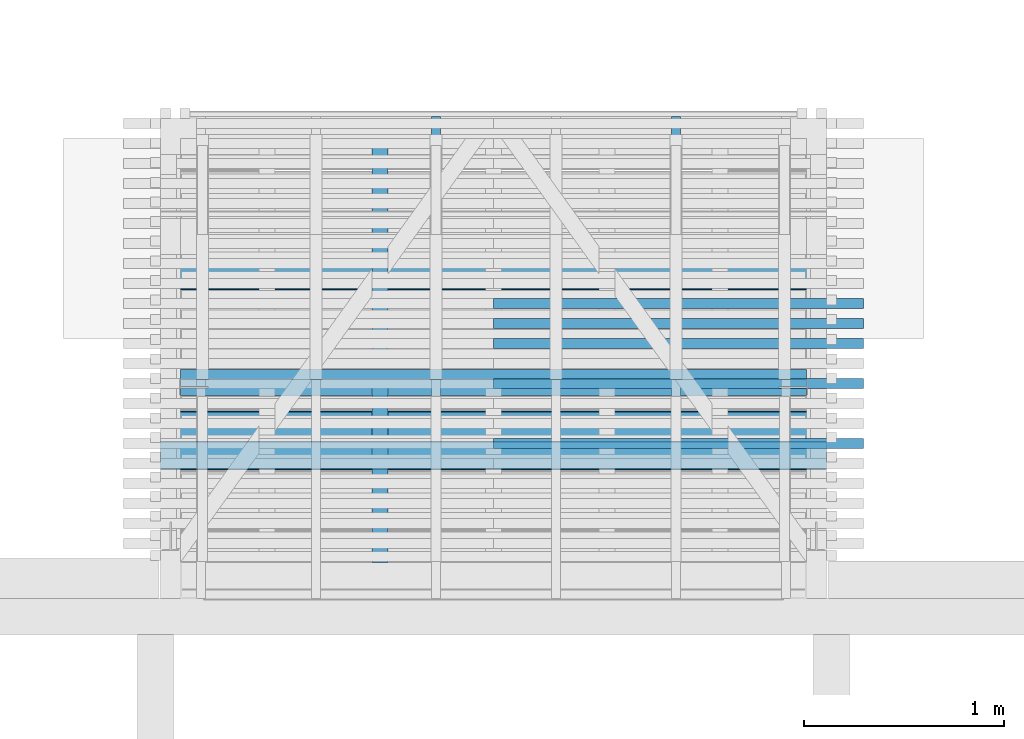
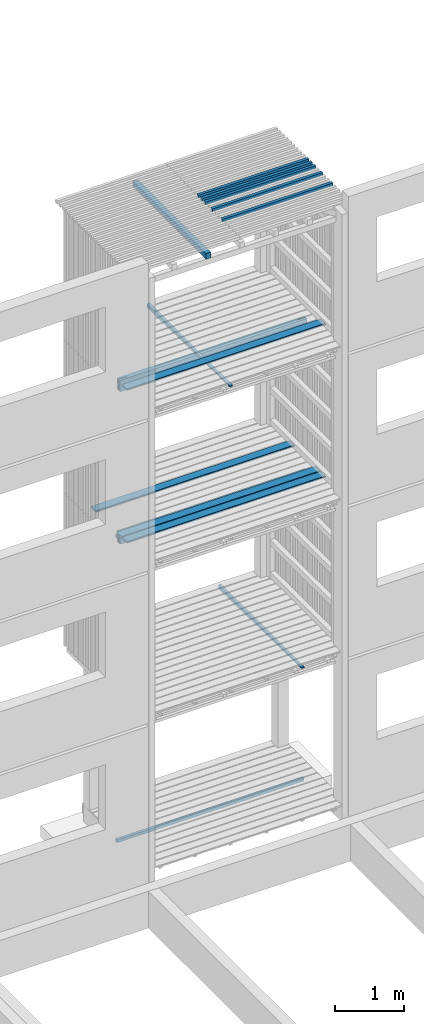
# One storey, part 99 of 182: 16 beams.
"""IFC2X3 building model written with IfcOpenShell, lengths in metres."""

from ifc_helpers import new_model, si_unit, frame, origin, place, context, project, spatial, faceted_brep, element, save


model = new_model("IFC2X3")

# Units and contexts
model_context = context("Model", 3, precision=1e-06, world=origin())
ifc_project = project(units=[si_unit("LENGTHUNIT", "METRE"), si_unit("PLANEANGLEUNIT", "RADIAN")], contexts=[model_context])

# Site, building, storey
site = spatial("IfcSite", under=ifc_project, CompositionType="ELEMENT")
building = spatial("IfcBuilding", under=site, CompositionType="ELEMENT")
storey = spatial("IfcBuildingStorey", under=building, Name="vs", CompositionType="ELEMENT", Elevation=-0.85)

# Beams
placement = place(None, origin())
beam_1_placement = place(placement, frame((46.53040135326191, 6.245077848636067, 10.47999999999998), z_axis=(0.0, 0.0, 1.0), x_axis=(-1.0, 0.0, 0.0)))
element("IfcBeam", 1, at=beam_1_placement, inside=storey, Name="Bardage", context=model_context, shape_type="Brep", body=[
    faceted_brep([(-3e-15, 0.025000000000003, 0.025000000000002), (-3e-15, -0.024999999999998, 0.025000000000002), (1.849999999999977, -0.024999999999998, 0.025000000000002), (1.849999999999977, 0.025000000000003, 0.025000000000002), (1.849999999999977, -0.024999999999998, 0.025000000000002), (-3e-15, -0.024999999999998, 0.025000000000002), (-3e-15, -0.024999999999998, -0.024999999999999), (1.849999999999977, -0.024999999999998, -0.024999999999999), (-3e-15, -0.024999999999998, 0.025000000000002), (-3e-15, 0.025000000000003, 0.025000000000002), (-3e-15, 0.025000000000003, -0.024999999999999), (-3e-15, -0.024999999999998, -0.024999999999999), (-3e-15, 0.025000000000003, -0.024999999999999), (-3e-15, 0.025000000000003, 0.025000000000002), (1.849999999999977, 0.025000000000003, 0.025000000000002), (1.849999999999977, 0.025000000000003, -0.024999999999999), (1.849999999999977, -0.024999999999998, -0.024999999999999), (-3e-15, -0.024999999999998, -0.024999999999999), (-3e-15, 0.025000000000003, -0.024999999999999), (1.849999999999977, 0.025000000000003, -0.024999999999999), (1.849999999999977, -0.024999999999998, 0.025000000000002), (1.849999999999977, -0.024999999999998, -0.024999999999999), (1.849999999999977, 0.025000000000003, -0.024999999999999), (1.849999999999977, 0.025000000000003, 0.025000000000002)], [[[0, 1, 2, 3]], [[4, 5, 6, 7]], [[8, 9, 10, 11]], [[12, 13, 14, 15]], [[16, 17, 18, 19]], [[20, 21, 22, 23]]]),
])
beam_2_placement = place(placement, frame((45.59340135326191, 4.870077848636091, 2.684400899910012), z_axis=(0.0, 0.0, 1.0), x_axis=(0.0, 1.0, 0.0)))
element("IfcBeam", 2, at=beam_2_placement, inside=storey, Name="Calage", context=model_context, shape_type="Brep", body=[
    faceted_brep([(2.410000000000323, -0.022500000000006, -0.035599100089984), (0.0, -0.022500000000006, 0.012600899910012), (0.0, 0.022499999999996, 0.012600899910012), (2.410000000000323, 0.022499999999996, -0.035599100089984), (0.0, 0.022499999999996, 0.035599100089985), (0.0, 0.022499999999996, 0.012600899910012), (0.0, -0.022500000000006, 0.012600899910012), (0.0, -0.022500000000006, 0.035599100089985), (2.410000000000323, 0.022499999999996, -0.035599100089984), (0.0, 0.022499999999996, 0.012600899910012), (0.0, 0.022499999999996, 0.035599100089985), (2.410000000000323, 0.022499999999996, 0.035599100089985), (2.410000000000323, -0.022500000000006, 0.035599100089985), (0.0, -0.022500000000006, 0.035599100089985), (0.0, -0.022500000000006, 0.012600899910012), (2.410000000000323, -0.022500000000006, -0.035599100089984), (2.410000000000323, 0.022499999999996, 0.035599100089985), (0.0, 0.022499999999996, 0.035599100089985), (0.0, -0.022500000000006, 0.035599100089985), (2.410000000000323, -0.022500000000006, 0.035599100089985), (2.410000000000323, 0.022499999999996, -0.035599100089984), (2.410000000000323, 0.022499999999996, 0.035599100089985), (2.410000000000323, -0.022500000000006, 0.035599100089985), (2.410000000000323, -0.022500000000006, -0.035599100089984)], [[[0, 1, 2, 3]], [[4, 5, 6, 7]], [[8, 9, 10, 11]], [[12, 13, 14, 15]], [[16, 17, 18, 19]], [[20, 21, 22, 23]]]),
])
beam_3_placement = place(placement, frame((46.53040135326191, 5.945077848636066, 10.47999999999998), z_axis=(0.0, 0.0, 1.0), x_axis=(-1.0, 0.0, 0.0)))
element("IfcBeam", 3, at=beam_3_placement, inside=storey, Name="Bardage", context=model_context, shape_type="Brep", body=[
    faceted_brep([(-3e-15, 0.025000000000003, 0.025000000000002), (-3e-15, -0.024999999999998, 0.025000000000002), (1.849999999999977, -0.024999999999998, 0.025000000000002), (1.849999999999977, 0.025000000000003, 0.025000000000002), (1.849999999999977, -0.024999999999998, 0.025000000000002), (-3e-15, -0.024999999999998, 0.025000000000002), (-3e-15, -0.024999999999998, -0.024999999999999), (1.849999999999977, -0.024999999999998, -0.024999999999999), (-3e-15, -0.024999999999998, 0.025000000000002), (-3e-15, 0.025000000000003, 0.025000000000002), (-3e-15, 0.025000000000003, -0.024999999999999), (-3e-15, -0.024999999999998, -0.024999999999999), (-3e-15, 0.025000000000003, -0.024999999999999), (-3e-15, 0.025000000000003, 0.025000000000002), (1.849999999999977, 0.025000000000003, 0.025000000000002), (1.849999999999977, 0.025000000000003, -0.024999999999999), (1.849999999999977, -0.024999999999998, -0.024999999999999), (-3e-15, -0.024999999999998, -0.024999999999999), (-3e-15, 0.025000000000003, -0.024999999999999), (1.849999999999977, 0.025000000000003, -0.024999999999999), (1.849999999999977, -0.024999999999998, 0.025000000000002), (1.849999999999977, -0.024999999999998, -0.024999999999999), (1.849999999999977, 0.025000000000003, -0.024999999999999), (1.849999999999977, 0.025000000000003, 0.025000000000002)], [[[0, 1, 2, 3]], [[4, 5, 6, 7]], [[8, 9, 10, 11]], [[12, 13, 14, 15]], [[16, 17, 18, 19]], [[20, 21, 22, 23]]]),
])
beam_4_placement = place(placement, frame((46.53040135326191, 5.645077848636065, 10.47999999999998), z_axis=(0.0, 0.0, 1.0), x_axis=(-1.0, 0.0, 0.0)))
element("IfcBeam", 4, at=beam_4_placement, inside=storey, Name="Bardage", context=model_context, shape_type="Brep", body=[
    faceted_brep([(-3e-15, 0.024999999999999, 0.025000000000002), (-3e-15, -0.024999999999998, 0.025000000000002), (1.849999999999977, -0.024999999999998, 0.025000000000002), (1.849999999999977, 0.024999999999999, 0.025000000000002), (1.849999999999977, -0.024999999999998, 0.025000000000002), (-3e-15, -0.024999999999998, 0.025000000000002), (-3e-15, -0.024999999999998, -0.024999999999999), (1.849999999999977, -0.024999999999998, -0.024999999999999), (-3e-15, -0.024999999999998, 0.025000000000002), (-3e-15, 0.024999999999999, 0.025000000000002), (-3e-15, 0.024999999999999, -0.024999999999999), (-3e-15, -0.024999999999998, -0.024999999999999), (-3e-15, 0.024999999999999, -0.024999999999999), (-3e-15, 0.024999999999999, 0.025000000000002), (1.849999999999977, 0.024999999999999, 0.025000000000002), (1.849999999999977, 0.024999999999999, -0.024999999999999), (1.849999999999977, -0.024999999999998, -0.024999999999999), (-3e-15, -0.024999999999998, -0.024999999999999), (-3e-15, 0.024999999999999, -0.024999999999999), (1.849999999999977, 0.024999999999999, -0.024999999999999), (1.849999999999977, -0.024999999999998, 0.025000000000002), (1.849999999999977, -0.024999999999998, -0.024999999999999), (1.849999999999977, 0.024999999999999, -0.024999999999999), (1.849999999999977, 0.024999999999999, 0.025000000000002)], [[[0, 1, 2, 3]], [[4, 5, 6, 7]], [[8, 9, 10, 11]], [[12, 13, 14, 15]], [[16, 17, 18, 19]], [[20, 21, 22, 23]]]),
])
beam_5_placement = place(placement, frame((46.53040135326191, 6.345077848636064, 10.47999999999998), z_axis=(0.0, 0.0, 1.0), x_axis=(-1.0, 0.0, 0.0)))
element("IfcBeam", 5, at=beam_5_placement, inside=storey, Name="Bardage", context=model_context, shape_type="Brep", body=[
    faceted_brep([(-3e-15, 0.024999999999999, 0.025000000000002), (-3e-15, -0.025000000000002, 0.025000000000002), (1.849999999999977, -0.025000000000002, 0.025000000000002), (1.849999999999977, 0.024999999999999, 0.025000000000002), (1.849999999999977, -0.025000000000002, 0.025000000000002), (-3e-15, -0.025000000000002, 0.025000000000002), (-3e-15, -0.025000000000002, -0.024999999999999), (1.849999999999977, -0.025000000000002, -0.024999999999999), (-3e-15, -0.025000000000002, 0.025000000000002), (-3e-15, 0.024999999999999, 0.025000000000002), (-3e-15, 0.024999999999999, -0.024999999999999), (-3e-15, -0.025000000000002, -0.024999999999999), (-3e-15, 0.024999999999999, -0.024999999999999), (-3e-15, 0.024999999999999, 0.025000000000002), (1.849999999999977, 0.024999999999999, 0.025000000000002), (1.849999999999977, 0.024999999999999, -0.024999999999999), (1.849999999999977, -0.025000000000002, -0.024999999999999), (-3e-15, -0.025000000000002, -0.024999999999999), (-3e-15, 0.024999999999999, -0.024999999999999), (1.849999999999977, 0.024999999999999, -0.024999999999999), (1.849999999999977, -0.025000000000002, 0.025000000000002), (1.849999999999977, -0.025000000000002, -0.024999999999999), (1.849999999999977, 0.024999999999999, -0.024999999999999), (1.849999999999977, 0.024999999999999, 0.025000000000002)], [[[0, 1, 2, 3]], [[4, 5, 6, 7]], [[8, 9, 10, 11]], [[12, 13, 14, 15]], [[16, 17, 18, 19]], [[20, 21, 22, 23]]]),
])
beam_6_placement = place(placement, frame((46.53040135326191, 6.145077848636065, 10.47999999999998), z_axis=(0.0, 0.0, 1.0), x_axis=(-1.0, 0.0, 0.0)))
element("IfcBeam", 6, at=beam_6_placement, inside=storey, Name="Bardage", context=model_context, shape_type="Brep", body=[
    faceted_brep([(-3e-15, 0.024999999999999, 0.025000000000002), (-3e-15, -0.024999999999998, 0.025000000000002), (1.849999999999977, -0.024999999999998, 0.025000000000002), (1.849999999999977, 0.024999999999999, 0.025000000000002), (1.849999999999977, -0.024999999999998, 0.025000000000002), (-3e-15, -0.024999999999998, 0.025000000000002), (-3e-15, -0.024999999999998, -0.024999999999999), (1.849999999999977, -0.024999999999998, -0.024999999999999), (-3e-15, -0.024999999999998, 0.025000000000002), (-3e-15, 0.024999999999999, 0.025000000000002), (-3e-15, 0.024999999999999, -0.024999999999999), (-3e-15, -0.024999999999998, -0.024999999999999), (-3e-15, 0.024999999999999, -0.024999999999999), (-3e-15, 0.024999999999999, 0.025000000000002), (1.849999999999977, 0.024999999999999, 0.025000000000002), (1.849999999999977, 0.024999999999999, -0.024999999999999), (1.849999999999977, -0.024999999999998, -0.024999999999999), (-3e-15, -0.024999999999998, -0.024999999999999), (-3e-15, 0.024999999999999, -0.024999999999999), (1.849999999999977, 0.024999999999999, -0.024999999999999), (1.849999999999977, -0.024999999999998, 0.025000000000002), (1.849999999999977, -0.024999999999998, -0.024999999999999), (1.849999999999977, 0.024999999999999, -0.024999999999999), (1.849999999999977, 0.024999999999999, 0.025000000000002)], [[[0, 1, 2, 3]], [[4, 5, 6, 7]], [[8, 9, 10, 11]], [[12, 13, 14, 15]], [[16, 17, 18, 19]], [[20, 21, 22, 23]]]),
])
beam_7_placement = place(placement, frame((46.34540135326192, 5.584577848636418, 5.433499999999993), z_axis=(0.0, 0.0, 1.0), x_axis=(-1.0, 0.0, 0.0)))
element("IfcBeam", 7, at=beam_7_placement, inside=storey, Name="Caillebotis", context=model_context, shape_type="Brep", body=[
    faceted_brep([(3.329999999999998, -0.072499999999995, -0.0135), (3.329999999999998, 0.072500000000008, -0.0135), (3.329999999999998, 0.072500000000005, 0.0085), (3.329999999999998, 0.067500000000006, 0.0135), (3.329999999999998, -0.067499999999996, 0.0135), (3.329999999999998, -0.072499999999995, 0.008500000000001), (0.0, -0.072499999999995, 0.008500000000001), (0.0, -0.067499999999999, 0.0135), (0.0, 0.067500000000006, 0.0135), (0.0, 0.072500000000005, 0.0085), (0.0, 0.072500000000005, -0.0135), (0.0, -0.072499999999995, -0.0135), (3.329999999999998, 0.072500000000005, 0.0085), (3.329999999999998, 0.072500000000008, -0.0135), (0.0, 0.072500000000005, -0.0135), (0.0, 0.072500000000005, 0.0085), (3.329999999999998, 0.067500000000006, 0.0135), (3.329999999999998, 0.072500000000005, 0.0085), (0.0, 0.072500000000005, 0.0085), (0.0, 0.067500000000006, 0.0135), (3.329999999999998, -0.067499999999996, 0.0135), (3.329999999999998, 0.067500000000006, 0.0135), (0.0, 0.067500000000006, 0.0135), (0.0, -0.067499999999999, 0.0135), (3.329999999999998, -0.072499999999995, 0.008500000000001), (3.329999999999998, -0.067499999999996, 0.0135), (0.0, -0.067499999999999, 0.0135), (0.0, -0.072499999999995, 0.008500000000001), (3.329999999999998, -0.072499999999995, -0.0135), (3.329999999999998, -0.072499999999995, 0.008500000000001), (0.0, -0.072499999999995, 0.008500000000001), (0.0, -0.072499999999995, -0.0135), (0.0, 0.072500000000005, -0.0135), (3.329999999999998, 0.072500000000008, -0.0135), (3.329999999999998, -0.072499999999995, -0.0135), (0.0, -0.072499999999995, -0.0135)], [[[0, 1, 2, 3, 4, 5]], [[6, 7, 8, 9, 10, 11]], [[12, 13, 14, 15]], [[16, 17, 18, 19]], [[20, 21, 22, 23]], [[24, 25, 26, 27]], [[28, 29, 30, 31]], [[32, 33, 34, 35]]]),
])
beam_8_placement = place(placement, frame((46.345401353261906, 6.484577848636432, 5.433499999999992), z_axis=(0.0, 0.0, 1.0), x_axis=(-1.0, -1e-14, 0.0)))
element("IfcBeam", 8, at=beam_8_placement, inside=storey, Name="Caillebotis", context=model_context, shape_type="Brep", body=[
    faceted_brep([(3.329999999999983, -0.072500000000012, -0.013499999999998), (3.329999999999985, 0.072499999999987, -0.013499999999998), (3.329999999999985, 0.072499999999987, 0.008500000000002), (3.329999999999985, 0.067499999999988, 0.013500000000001), (3.329999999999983, -0.067500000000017, 0.013500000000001), (3.329999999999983, -0.072500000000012, 0.008500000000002), (-1.5e-14, -0.07249999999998, 0.008500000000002), (-1.5e-14, -0.067499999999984, 0.013500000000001), (-1.4e-14, 0.067500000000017, 0.013500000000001), (-1.4e-14, 0.072500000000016, 0.008500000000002), (-1.4e-14, 0.072500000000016, -0.013499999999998), (-1.5e-14, -0.07249999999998, -0.013499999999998), (3.329999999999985, 0.072499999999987, 0.008500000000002), (3.329999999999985, 0.072499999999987, -0.013499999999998), (-1.4e-14, 0.072500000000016, -0.013499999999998), (-1.4e-14, 0.072500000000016, 0.008500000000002), (3.329999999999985, 0.067499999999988, 0.013500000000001), (3.329999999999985, 0.072499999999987, 0.008500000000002), (-1.4e-14, 0.072500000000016, 0.008500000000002), (-1.4e-14, 0.067500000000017, 0.013500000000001), (3.329999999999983, -0.067500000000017, 0.013500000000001), (3.329999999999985, 0.067499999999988, 0.013500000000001), (-1.4e-14, 0.067500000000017, 0.013500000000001), (-1.5e-14, -0.067499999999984, 0.013500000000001), (3.329999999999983, -0.072500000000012, 0.008500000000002), (3.329999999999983, -0.067500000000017, 0.013500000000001), (-1.5e-14, -0.067499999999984, 0.013500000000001), (-1.5e-14, -0.07249999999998, 0.008500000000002), (3.329999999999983, -0.072500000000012, -0.013499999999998), (3.329999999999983, -0.072500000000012, 0.008500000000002), (-1.5e-14, -0.07249999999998, 0.008500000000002), (-1.5e-14, -0.07249999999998, -0.013499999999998), (-1.4e-14, 0.072500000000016, -0.013499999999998), (3.329999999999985, 0.072499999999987, -0.013499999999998), (3.329999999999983, -0.072500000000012, -0.013499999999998), (-1.5e-14, -0.07249999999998, -0.013499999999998)], [[[0, 1, 2, 3, 4, 5]], [[6, 7, 8, 9, 10, 11]], [[12, 13, 14, 15]], [[16, 17, 18, 19]], [[20, 21, 22, 23]], [[24, 25, 26, 27]], [[28, 29, 30, 31]], [[32, 33, 34, 35]]]),
])
beam_9_placement = place(placement, frame((43.11540135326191, 5.990077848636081, 5.217399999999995), z_axis=(0.0, 0.0, 1.0), x_axis=(1.0, 0.0, 0.0)))
element("IfcBeam", 9, at=beam_9_placement, inside=storey, Name="Ligneul", context=model_context, shape_type="Brep", body=[
    faceted_brep([(4e-15, -0.024999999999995, 0.024999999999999), (4e-15, -0.024999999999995, -0.025), (3.129999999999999, -0.024999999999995, -0.025), (3.129999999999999, -0.024999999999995, 0.024999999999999), (4e-15, 0.025000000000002, 0.024999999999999), (4e-15, -0.024999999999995, 0.024999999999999), (3.129999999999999, -0.024999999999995, 0.024999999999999), (3.129999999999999, 0.025000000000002, 0.024999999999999), (4e-15, -0.024999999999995, 0.024999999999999), (4e-15, 0.025000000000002, 0.024999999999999), (4e-15, 0.025000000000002, -0.025), (4e-15, -0.024999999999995, -0.025), (4e-15, 0.025000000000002, -0.025), (4e-15, 0.025000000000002, 0.024999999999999), (3.129999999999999, 0.025000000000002, 0.024999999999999), (3.129999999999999, 0.025000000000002, -0.025), (3.129999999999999, -0.024999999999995, -0.025), (4e-15, -0.024999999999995, -0.025), (4e-15, 0.025000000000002, -0.025), (3.129999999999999, 0.025000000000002, -0.025), (3.129999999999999, -0.024999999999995, 0.024999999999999), (3.129999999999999, -0.024999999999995, -0.025), (3.129999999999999, 0.025000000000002, -0.025), (3.129999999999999, 0.025000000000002, 0.024999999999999)], [[[0, 1, 2, 3]], [[4, 5, 6, 7]], [[8, 9, 10, 11]], [[12, 13, 14, 15]], [[16, 17, 18, 19]], [[20, 21, 22, 23]]]),
])
beam_10_placement = place(placement, frame((44.39340135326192, 4.870077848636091, 8.084400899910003), z_axis=(0.0, 0.0, 1.0), x_axis=(0.0, 1.0, 0.0)))
element("IfcBeam", 10, at=beam_10_placement, inside=storey, Name="Calage", context=model_context, shape_type="Brep", body=[
    faceted_brep([(2.410000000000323, -0.022499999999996, -0.035599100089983), (0.0, -0.022499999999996, 0.012600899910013), (0.0, 0.022500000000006, 0.012600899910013), (2.410000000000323, 0.022500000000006, -0.035599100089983), (0.0, 0.022500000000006, 0.035599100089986), (0.0, 0.022500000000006, 0.012600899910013), (0.0, -0.022499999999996, 0.012600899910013), (0.0, -0.022499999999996, 0.035599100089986), (2.410000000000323, 0.022500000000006, -0.035599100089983), (0.0, 0.022500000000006, 0.012600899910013), (0.0, 0.022500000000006, 0.035599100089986), (2.410000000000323, 0.022500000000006, 0.035599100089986), (2.410000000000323, -0.022499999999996, 0.035599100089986), (0.0, -0.022499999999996, 0.035599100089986), (0.0, -0.022499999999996, 0.012600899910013), (2.410000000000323, -0.022499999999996, -0.035599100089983), (2.410000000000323, 0.022500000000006, 0.035599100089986), (0.0, 0.022500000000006, 0.035599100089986), (0.0, -0.022499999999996, 0.035599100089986), (2.410000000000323, -0.022499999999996, 0.035599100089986), (2.410000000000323, 0.022500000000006, -0.035599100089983), (2.410000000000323, 0.022500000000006, 0.035599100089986), (2.410000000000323, -0.022499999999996, 0.035599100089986), (2.410000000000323, -0.022499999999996, -0.035599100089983)], [[[0, 1, 2, 3]], [[4, 5, 6, 7]], [[8, 9, 10, 11]], [[12, 13, 14, 15]], [[16, 17, 18, 19]], [[20, 21, 22, 23]]]),
])
beam_11_placement = place(placement, frame((46.24540135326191, 5.925077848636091, 5.239999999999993), z_axis=(0.0, 0.0, 1.0), x_axis=(-1.0, -2e-15, 0.0)))
element("IfcBeam", 11, at=beam_11_placement, inside=storey, Name="Sommier", context=model_context, shape_type="Brep", body=[
    faceted_brep([(0.137000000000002, -0.003999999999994, -0.100000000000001), (1e-15, -0.003999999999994, -0.100000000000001), (1e-15, -0.003999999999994, 0.100000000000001), (0.137000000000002, -0.003999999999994, 0.100000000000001), (0.137000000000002, 0.004000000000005, -0.100000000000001), (0.137000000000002, -0.003999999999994, -0.100000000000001), (0.137000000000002, -0.003999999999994, 0.100000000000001), (0.137000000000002, 0.004000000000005, 0.100000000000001), (1e-15, 0.004000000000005, -0.100000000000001), (0.137000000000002, 0.004000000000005, -0.100000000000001), (0.137000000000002, 0.004000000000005, 0.100000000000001), (1e-15, 0.004000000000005, 0.100000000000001), (1e-15, -0.003999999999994, 0.100000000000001), (1e-15, -0.003999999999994, -0.100000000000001), (1e-15, -0.039999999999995, -0.100000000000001), (1e-15, -0.039999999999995, 0.100000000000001), (1e-15, 0.040000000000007, 0.100000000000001), (1e-15, 0.040000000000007, -0.100000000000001), (1e-15, 0.004000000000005, -0.100000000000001), (1e-15, 0.004000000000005, 0.100000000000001), (2.992999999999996, 0.004000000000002, 0.100000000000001), (2.992999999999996, 0.004000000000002, -0.100000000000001), (3.129999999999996, 0.004000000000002, -0.1), (3.129999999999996, 0.004000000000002, 0.100000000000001), (2.992999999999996, -0.004000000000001, 0.100000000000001), (2.992999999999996, -0.004000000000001, -0.100000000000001), (2.992999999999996, 0.004000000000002, -0.100000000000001), (2.992999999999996, 0.004000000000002, 0.100000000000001), (3.129999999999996, -0.004000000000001, 0.100000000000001), (3.129999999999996, -0.004000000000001, -0.100000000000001), (2.992999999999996, -0.004000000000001, -0.100000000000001), (2.992999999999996, -0.004000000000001, 0.100000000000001), (3.129999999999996, 0.004000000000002, 0.100000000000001), (3.129999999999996, 0.004000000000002, -0.1), (3.129999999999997, 0.04, -0.1), (3.129999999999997, 0.04, 0.100000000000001), (3.129999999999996, -0.040000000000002, 0.100000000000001), (3.129999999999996, -0.040000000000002, -0.1), (3.129999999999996, -0.004000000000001, -0.100000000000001), (3.129999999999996, -0.004000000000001, 0.100000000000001), (2.992999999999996, 0.004000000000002, 0.100000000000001), (3.129999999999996, 0.004000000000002, 0.100000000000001), (3.129999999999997, 0.04, 0.100000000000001), (1e-15, 0.040000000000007, 0.100000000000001), (1e-15, 0.004000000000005, 0.100000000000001), (0.137000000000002, 0.004000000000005, 0.100000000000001), (0.137000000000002, -0.003999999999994, 0.100000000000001), (1e-15, -0.003999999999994, 0.100000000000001), (1e-15, -0.039999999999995, 0.100000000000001), (3.129999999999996, -0.040000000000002, 0.100000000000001), (3.129999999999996, -0.004000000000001, 0.100000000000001), (2.992999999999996, -0.004000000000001, 0.100000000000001), (1e-15, -0.039999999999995, -0.100000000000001), (1e-15, -0.003999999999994, -0.100000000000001), (0.137000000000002, -0.003999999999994, -0.100000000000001), (0.137000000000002, 0.004000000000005, -0.100000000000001), (1e-15, 0.004000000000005, -0.100000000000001), (1e-15, 0.040000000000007, -0.100000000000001), (3.129999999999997, 0.04, -0.1), (3.129999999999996, 0.004000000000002, -0.1), (2.992999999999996, 0.004000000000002, -0.100000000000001), (2.992999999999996, -0.004000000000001, -0.100000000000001), (3.129999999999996, -0.004000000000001, -0.100000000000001), (3.129999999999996, -0.040000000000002, -0.1), (1e-15, -0.039999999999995, -0.100000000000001), (3.129999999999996, -0.040000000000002, -0.1), (3.129999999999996, -0.040000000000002, 0.100000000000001), (1e-15, -0.039999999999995, 0.100000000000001), (1e-15, 0.040000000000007, 0.100000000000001), (3.129999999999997, 0.04, 0.100000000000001), (3.129999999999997, 0.04, -0.1), (1e-15, 0.040000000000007, -0.100000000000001)], [[[0, 1, 2, 3]], [[4, 5, 6, 7]], [[8, 9, 10, 11]], [[12, 13, 14, 15]], [[16, 17, 18, 19]], [[20, 21, 22, 23]], [[24, 25, 26, 27]], [[28, 29, 30, 31]], [[32, 33, 34, 35]], [[36, 37, 38, 39]], [[40, 41, 42, 43, 44, 45, 46, 47, 48, 49, 50, 51]], [[52, 53, 54, 55, 56, 57, 58, 59, 60, 61, 62, 63]], [[64, 65, 66, 67]], [[68, 69, 70, 71]]]),
])
beam_12_placement = place(placement, frame((43.11540135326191, 5.990077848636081, -0.164999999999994), z_axis=(0.0, 0.0, 1.0), x_axis=(1.0, 0.0, 0.0)))
element("IfcBeam", 12, at=beam_12_placement, inside=storey, Name="Ligneul", context=model_context, shape_type="Brep", body=[
    faceted_brep([(4e-15, -0.024999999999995, 0.025), (4e-15, -0.024999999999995, -0.025), (3.129999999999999, -0.024999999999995, -0.025), (3.129999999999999, -0.024999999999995, 0.025), (4e-15, 0.025000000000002, 0.025), (4e-15, -0.024999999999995, 0.025), (3.129999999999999, -0.024999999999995, 0.025), (3.129999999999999, 0.025000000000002, 0.025), (4e-15, -0.024999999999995, 0.025), (4e-15, 0.025000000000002, 0.025), (4e-15, 0.025000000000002, -0.025), (4e-15, -0.024999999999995, -0.025), (4e-15, 0.025000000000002, -0.025), (4e-15, 0.025000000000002, 0.025), (3.129999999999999, 0.025000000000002, 0.025), (3.129999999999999, 0.025000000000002, -0.025), (3.129999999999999, -0.024999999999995, -0.025), (4e-15, -0.024999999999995, -0.025), (4e-15, 0.025000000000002, -0.025), (3.129999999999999, 0.025000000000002, -0.025), (3.129999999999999, -0.024999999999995, 0.025), (3.129999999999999, -0.024999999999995, -0.025), (3.129999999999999, 0.025000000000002, -0.025), (3.129999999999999, 0.025000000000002, 0.025)], [[[0, 1, 2, 3]], [[4, 5, 6, 7]], [[8, 9, 10, 11]], [[12, 13, 14, 15]], [[16, 17, 18, 19]], [[20, 21, 22, 23]]]),
])
beam_13_placement = place(placement, frame((44.11373468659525, 5.050077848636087, 10.404999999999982), z_axis=(0.0, 0.0, 1.0), x_axis=(0.0, 1.0, 0.0)))
element("IfcBeam", 13, at=beam_13_placement, inside=storey, Name="Support bardage", context=model_context, shape_type="Brep", body=[
    faceted_brep([(2.120000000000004, -0.040000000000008, 0.050000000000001), (2.120000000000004, 0.03999999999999, 0.050000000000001), (3e-15, 0.03999999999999, 0.050000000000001), (3e-15, -0.040000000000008, 0.050000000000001), (3e-15, 0.03999999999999, 0.050000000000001), (2.120000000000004, 0.03999999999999, 0.050000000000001), (2.120000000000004, 0.03999999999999, -0.050000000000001), (3e-15, 0.03999999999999, -0.050000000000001), (2.120000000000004, 0.03999999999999, 0.050000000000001), (2.120000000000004, -0.040000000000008, 0.050000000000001), (2.120000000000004, -0.040000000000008, -0.050000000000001), (2.120000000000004, 0.03999999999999, -0.050000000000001), (2.120000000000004, -0.040000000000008, -0.050000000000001), (2.120000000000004, -0.040000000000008, 0.050000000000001), (3e-15, -0.040000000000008, 0.050000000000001), (3e-15, -0.040000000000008, -0.050000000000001), (3e-15, 0.03999999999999, -0.050000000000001), (2.120000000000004, 0.03999999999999, -0.050000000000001), (2.120000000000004, -0.040000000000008, -0.050000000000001), (3e-15, -0.040000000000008, -0.050000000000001), (3e-15, 0.03999999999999, 0.050000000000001), (3e-15, 0.03999999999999, -0.050000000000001), (3e-15, -0.040000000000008, -0.050000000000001), (3e-15, -0.040000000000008, 0.050000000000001)], [[[0, 1, 2, 3]], [[4, 5, 6, 7]], [[8, 9, 10, 11]], [[12, 13, 14, 15]], [[16, 17, 18, 19]], [[20, 21, 22, 23]]]),
])
beam_14_placement = place(placement, frame((46.24540135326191, 5.925077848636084, 7.93999999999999), z_axis=(0.0, 0.0, 1.0), x_axis=(-1.0, 0.0, 0.0)))
element("IfcBeam", 14, at=beam_14_placement, inside=storey, Name="Sommier", context=model_context, shape_type="Brep", body=[
    faceted_brep([(0.137000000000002, -0.004000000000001, -0.100000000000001), (1e-15, -0.004000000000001, -0.100000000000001), (1e-15, -0.004000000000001, 0.1), (0.137000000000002, -0.004000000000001, 0.1), (0.137000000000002, 0.003999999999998, -0.100000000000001), (0.137000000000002, -0.004000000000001, -0.100000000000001), (0.137000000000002, -0.004000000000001, 0.1), (0.137000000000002, 0.003999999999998, 0.1), (1e-15, 0.003999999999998, -0.100000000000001), (0.137000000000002, 0.003999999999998, -0.100000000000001), (0.137000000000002, 0.003999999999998, 0.1), (1e-15, 0.003999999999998, 0.1), (1e-15, -0.004000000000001, 0.1), (1e-15, -0.004000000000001, -0.100000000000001), (1e-15, -0.040000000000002, -0.100000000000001), (1e-15, -0.040000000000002, 0.1), (1e-15, 0.04, 0.1), (1e-15, 0.04, -0.100000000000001), (1e-15, 0.003999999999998, -0.100000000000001), (1e-15, 0.003999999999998, 0.1), (2.992999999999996, 0.004000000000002, 0.1), (2.992999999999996, 0.004000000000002, -0.100000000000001), (3.129999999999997, 0.004000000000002, -0.100000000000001), (3.129999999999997, 0.004000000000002, 0.1), (2.992999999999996, -0.004000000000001, 0.1), (2.992999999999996, -0.004000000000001, -0.100000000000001), (2.992999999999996, 0.004000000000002, -0.100000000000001), (2.992999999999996, 0.004000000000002, 0.1), (3.129999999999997, -0.004000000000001, 0.1), (3.129999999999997, -0.004000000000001, -0.100000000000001), (2.992999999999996, -0.004000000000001, -0.100000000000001), (2.992999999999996, -0.004000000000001, 0.1), (3.129999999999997, 0.004000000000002, 0.1), (3.129999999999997, 0.004000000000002, -0.100000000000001), (3.129999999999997, 0.040000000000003, -0.100000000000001), (3.129999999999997, 0.040000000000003, 0.1), (3.129999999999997, -0.040000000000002, 0.1), (3.129999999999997, -0.040000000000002, -0.100000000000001), (3.129999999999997, -0.004000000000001, -0.100000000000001), (3.129999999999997, -0.004000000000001, 0.1), (2.992999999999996, 0.004000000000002, 0.1), (3.129999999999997, 0.004000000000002, 0.1), (3.129999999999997, 0.040000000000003, 0.1), (1e-15, 0.04, 0.1), (1e-15, 0.003999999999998, 0.1), (0.137000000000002, 0.003999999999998, 0.1), (0.137000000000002, -0.004000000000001, 0.1), (1e-15, -0.004000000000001, 0.1), (1e-15, -0.040000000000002, 0.1), (3.129999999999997, -0.040000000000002, 0.1), (3.129999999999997, -0.004000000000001, 0.1), (2.992999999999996, -0.004000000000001, 0.1), (1e-15, -0.040000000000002, -0.100000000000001), (1e-15, -0.004000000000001, -0.100000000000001), (0.137000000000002, -0.004000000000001, -0.100000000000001), (0.137000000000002, 0.003999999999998, -0.100000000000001), (1e-15, 0.003999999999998, -0.100000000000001), (1e-15, 0.04, -0.100000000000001), (3.129999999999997, 0.040000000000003, -0.100000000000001), (3.129999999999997, 0.004000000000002, -0.100000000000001), (2.992999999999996, 0.004000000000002, -0.100000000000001), (2.992999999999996, -0.004000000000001, -0.100000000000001), (3.129999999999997, -0.004000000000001, -0.100000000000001), (3.129999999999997, -0.040000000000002, -0.100000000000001), (1e-15, -0.040000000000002, -0.100000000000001), (3.129999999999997, -0.040000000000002, -0.100000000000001), (3.129999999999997, -0.040000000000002, 0.1), (1e-15, -0.040000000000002, 0.1), (1e-15, 0.04, 0.1), (3.129999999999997, 0.040000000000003, 0.1), (3.129999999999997, 0.040000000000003, -0.100000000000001), (1e-15, 0.04, -0.100000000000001)], [[[0, 1, 2, 3]], [[4, 5, 6, 7]], [[8, 9, 10, 11]], [[12, 13, 14, 15]], [[16, 17, 18, 19]], [[20, 21, 22, 23]], [[24, 25, 26, 27]], [[28, 29, 30, 31]], [[32, 33, 34, 35]], [[36, 37, 38, 39]], [[40, 41, 42, 43, 44, 45, 46, 47, 48, 49, 50, 51]], [[52, 53, 54, 55, 56, 57, 58, 59, 60, 61, 62, 63]], [[64, 65, 66, 67]], [[68, 69, 70, 71]]]),
])
beam_15_placement = place(placement, frame((46.34540135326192, 5.584577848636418, 8.13349999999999), z_axis=(0.0, 0.0, 1.0), x_axis=(-1.0, -2e-15, 0.0)))
element("IfcBeam", 15, at=beam_15_placement, inside=storey, Name="Caillebotis", context=model_context, shape_type="Brep", body=[
    faceted_brep([(3.329999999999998, -0.072500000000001, -0.013500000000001), (3.329999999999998, 0.072500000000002, -0.013500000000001), (3.329999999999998, 0.072499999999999, 0.008499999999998), (3.329999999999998, 0.0675, 0.013499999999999), (3.329999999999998, -0.067500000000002, 0.013499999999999), (3.329999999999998, -0.072500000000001, 0.0085), (0.0, -0.072499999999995, 0.0085), (0.0, -0.067499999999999, 0.013499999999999), (0.0, 0.067500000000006, 0.013499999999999), (0.0, 0.072500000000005, 0.008499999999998), (0.0, 0.072500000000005, -0.013500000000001), (0.0, -0.072499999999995, -0.013500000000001), (3.329999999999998, 0.072499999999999, 0.008499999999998), (3.329999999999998, 0.072500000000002, -0.013500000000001), (0.0, 0.072500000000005, -0.013500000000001), (0.0, 0.072500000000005, 0.008499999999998), (3.329999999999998, 0.0675, 0.013499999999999), (3.329999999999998, 0.072499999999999, 0.008499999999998), (0.0, 0.072500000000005, 0.008499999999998), (0.0, 0.067500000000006, 0.013499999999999), (3.329999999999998, -0.067500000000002, 0.013499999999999), (3.329999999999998, 0.0675, 0.013499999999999), (0.0, 0.067500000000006, 0.013499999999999), (0.0, -0.067499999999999, 0.013499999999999), (3.329999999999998, -0.072500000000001, 0.0085), (3.329999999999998, -0.067500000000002, 0.013499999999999), (0.0, -0.067499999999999, 0.013499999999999), (0.0, -0.072499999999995, 0.0085), (3.329999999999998, -0.072500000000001, -0.013500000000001), (3.329999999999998, -0.072500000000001, 0.0085), (0.0, -0.072499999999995, 0.0085), (0.0, -0.072499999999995, -0.013500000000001), (0.0, 0.072500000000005, -0.013500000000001), (3.329999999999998, 0.072500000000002, -0.013500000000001), (3.329999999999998, -0.072500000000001, -0.013500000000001), (0.0, -0.072499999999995, -0.013500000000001)], [[[0, 1, 2, 3, 4, 5]], [[6, 7, 8, 9, 10, 11]], [[12, 13, 14, 15]], [[16, 17, 18, 19]], [[20, 21, 22, 23]], [[24, 25, 26, 27]], [[28, 29, 30, 31]], [[32, 33, 34, 35]]]),
])
beam_16_placement = place(placement, frame((46.34540135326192, 5.734577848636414, 5.433499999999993), z_axis=(0.0, 0.0, 1.0), x_axis=(-1.0, 0.0, 0.0)))
element("IfcBeam", 16, at=beam_16_placement, inside=storey, Name="Caillebotis", context=model_context, shape_type="Brep", body=[
    faceted_brep([(3.329999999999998, -0.072499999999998, -0.0135), (3.329999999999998, 0.072500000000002, -0.0135), (3.329999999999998, 0.072500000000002, 0.0085), (3.329999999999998, 0.067500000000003, 0.0135), (3.329999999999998, -0.067500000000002, 0.0135), (3.329999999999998, -0.072499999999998, 0.008500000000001), (0.0, -0.072499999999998, 0.008500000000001), (0.0, -0.067500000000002, 0.0135), (0.0, 0.067500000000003, 0.0135), (0.0, 0.072499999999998, 0.0085), (0.0, 0.072499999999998, -0.0135), (0.0, -0.072499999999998, -0.0135), (3.329999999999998, 0.072500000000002, 0.0085), (3.329999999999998, 0.072500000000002, -0.0135), (0.0, 0.072499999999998, -0.0135), (0.0, 0.072499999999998, 0.0085), (3.329999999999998, 0.067500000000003, 0.0135), (3.329999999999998, 0.072500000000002, 0.0085), (0.0, 0.072499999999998, 0.0085), (0.0, 0.067500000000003, 0.0135), (3.329999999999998, -0.067500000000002, 0.0135), (3.329999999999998, 0.067500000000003, 0.0135), (0.0, 0.067500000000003, 0.0135), (0.0, -0.067500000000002, 0.0135), (3.329999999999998, -0.072499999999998, 0.008500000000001), (3.329999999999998, -0.067500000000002, 0.0135), (0.0, -0.067500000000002, 0.0135), (0.0, -0.072499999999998, 0.008500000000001), (3.329999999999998, -0.072499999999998, -0.0135), (3.329999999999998, -0.072499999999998, 0.008500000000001), (0.0, -0.072499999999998, 0.008500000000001), (0.0, -0.072499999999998, -0.0135), (0.0, 0.072499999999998, -0.0135), (3.329999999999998, 0.072500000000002, -0.0135), (3.329999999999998, -0.072499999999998, -0.0135), (0.0, -0.072499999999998, -0.0135)], [[[0, 1, 2, 3, 4, 5]], [[6, 7, 8, 9, 10, 11]], [[12, 13, 14, 15]], [[16, 17, 18, 19]], [[20, 21, 22, 23]], [[24, 25, 26, 27]], [[28, 29, 30, 31]], [[32, 33, 34, 35]]]),
])

save(model, "model.ifc")
